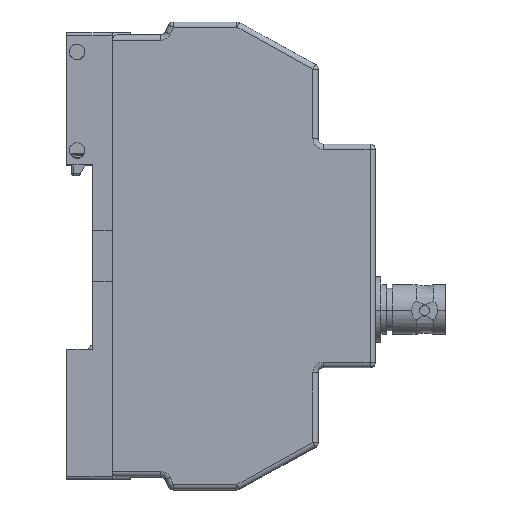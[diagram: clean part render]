
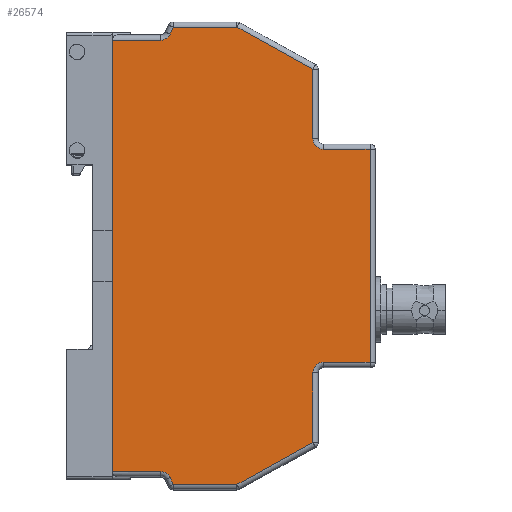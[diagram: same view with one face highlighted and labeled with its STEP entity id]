
A CAD part, top view. The second image highlights one B-rep face of the part: STEP entity #26574.
In plain terms, the highlighted planar face has unit normal (0, 0, 1).
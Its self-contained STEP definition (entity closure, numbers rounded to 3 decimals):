
#7532 = VERTEX_POINT ( 'NONE', #21401 ) ;
#7919 = VERTEX_POINT ( 'NONE', #21823 ) ;
#11810 = DIRECTION ( 'NONE',  ( 0., -1., 0. ) ) ;
#11812 = VECTOR ( 'NONE', #11810, 1000. ) ;
#11813 = CARTESIAN_POINT ( 'NONE',  ( 3.373, -42.5, 17.5 ) ) ;
#11815 = LINE ( 'NONE', #11813, #11812 ) ;
#12192 = CARTESIAN_POINT ( 'NONE',  ( 44., 20.5, 17.5 ) ) ;
#12193 = CARTESIAN_POINT ( 'NONE',  ( 12.702, 41.5, 17.5 ) ) ;
#12195 = DIRECTION ( 'NONE',  ( -1., 0., 0. ) ) ;
#12197 = DIRECTION ( 'NONE',  ( 0., 0., 1. ) ) ;
#12199 = CARTESIAN_POINT ( 'NONE',  ( 12.702, -43.5, 17.5 ) ) ;
#12201 = AXIS2_PLACEMENT_3D ( 'NONE', #12199, #12197, #12195 ) ;
#12202 = CIRCLE ( 'NONE', #12201, 2. ) ;
#12208 = CARTESIAN_POINT ( 'NONE',  ( 12.702, -41.5, 17.5 ) ) ;
#12210 = CARTESIAN_POINT ( 'NONE',  ( 14.523, 42.672, 17.5 ) ) ;
#12267 = CARTESIAN_POINT ( 'NONE',  ( 44., -20.5, 17.5 ) ) ;
#12269 = DIRECTION ( 'NONE',  ( -1., 0., 0. ) ) ;
#12271 = DIRECTION ( 'NONE',  ( 0., 0., -1. ) ) ;
#12272 = AXIS2_PLACEMENT_3D ( 'NONE', #12278, #12271, #12269 ) ;
#12278 = CARTESIAN_POINT ( 'NONE',  ( 54., 21.5, 17.5 ) ) ;
#12279 = PLANE ( 'NONE',  #12272 ) ;
#12281 = FACE_OUTER_BOUND ( 'NONE', #26534, .T. ) ;
#12283 = DIRECTION ( 'NONE',  ( -1., 0., 0. ) ) ;
#12284 = DIRECTION ( 'NONE',  ( 0., 0., 1. ) ) ;
#12285 = CARTESIAN_POINT ( 'NONE',  ( 44., -22.5, 17.5 ) ) ;
#12287 = AXIS2_PLACEMENT_3D ( 'NONE', #12285, #12284, #12283 ) ;
#12288 = CIRCLE ( 'NONE', #12287, 2. ) ;
#12294 = DIRECTION ( 'NONE',  ( -1., 0., 0. ) ) ;
#12296 = DIRECTION ( 'NONE',  ( 0., 0., 1. ) ) ;
#12298 = CARTESIAN_POINT ( 'NONE',  ( 12.702, 43.5, 17.5 ) ) ;
#12300 = AXIS2_PLACEMENT_3D ( 'NONE', #12298, #12296, #12294 ) ;
#12301 = CIRCLE ( 'NONE', #12300, 2. ) ;
#12315 = DIRECTION ( 'NONE',  ( 1., 0., 0. ) ) ;
#12316 = VECTOR ( 'NONE', #12315, 1000. ) ;
#12317 = CARTESIAN_POINT ( 'NONE',  ( 54., -41.5, 17.5 ) ) ;
#12320 = LINE ( 'NONE', #12317, #12316 ) ;
#12323 = DIRECTION ( 'NONE',  ( -1., 0., 0. ) ) ;
#12325 = VECTOR ( 'NONE', #12323, 1000. ) ;
#12326 = CARTESIAN_POINT ( 'NONE',  ( 54., 41.5, 17.5 ) ) ;
#12328 = LINE ( 'NONE', #12326, #12325 ) ;
#12332 = CARTESIAN_POINT ( 'NONE',  ( 42., -22.5, 17.5 ) ) ;
#12334 = DIRECTION ( 'NONE',  ( 0., 1., 0. ) ) ;
#12336 = VECTOR ( 'NONE', #12334, 1000. ) ;
#12338 = CARTESIAN_POINT ( 'NONE',  ( 42., 21.5, 17.5 ) ) ;
#12339 = LINE ( 'NONE', #12338, #12336 ) ;
#12344 = CARTESIAN_POINT ( 'NONE',  ( 42., 22.5, 17.5 ) ) ;
#12346 = DIRECTION ( 'NONE',  ( 0.414, -0.91, 0. ) ) ;
#12348 = VECTOR ( 'NONE', #12346, 1000. ) ;
#12350 = CARTESIAN_POINT ( 'NONE',  ( -2.896, -4.388, 17.5 ) ) ;
#12351 = LINE ( 'NONE', #12350, #12348 ) ;
#12355 = DIRECTION ( 'NONE',  ( 1., 0., 0. ) ) ;
#12357 = VECTOR ( 'NONE', #12355, 1000. ) ;
#12358 = CARTESIAN_POINT ( 'NONE',  ( 54., -44., 17.5 ) ) ;
#12359 = LINE ( 'NONE', #12358, #12357 ) ;
#12365 = CARTESIAN_POINT ( 'NONE',  ( 15.127, -44., 17.5 ) ) ;
#12367 = DIRECTION ( 'NONE',  ( 0.876, 0.483, 0. ) ) ;
#12369 = VECTOR ( 'NONE', #12367, 1000. ) ;
#12370 = CARTESIAN_POINT ( 'NONE',  ( 75.49, -17.478, 17.5 ) ) ;
#12372 = LINE ( 'NONE', #12370, #12369 ) ;
#12375 = CARTESIAN_POINT ( 'NONE',  ( 27.386, -44., 17.5 ) ) ;
#12380 = CARTESIAN_POINT ( 'NONE',  ( 42., -35.942, 17.5 ) ) ;
#12383 = DIRECTION ( 'NONE',  ( 0., 1., 0. ) ) ;
#12384 = VECTOR ( 'NONE', #12383, 1000. ) ;
#12385 = CARTESIAN_POINT ( 'NONE',  ( 42., 21.5, 17.5 ) ) ;
#12387 = LINE ( 'NONE', #12385, #12384 ) ;
#12434 = DIRECTION ( 'NONE',  ( 1., 0., 0. ) ) ;
#12436 = VECTOR ( 'NONE', #12434, 1000. ) ;
#12438 = CARTESIAN_POINT ( 'NONE',  ( 54., -20.5, 17.5 ) ) ;
#12439 = LINE ( 'NONE', #12438, #12436 ) ;
#12444 = DIRECTION ( 'NONE',  ( 0., 1., 0. ) ) ;
#12446 = VECTOR ( 'NONE', #12444, 1000. ) ;
#12447 = CARTESIAN_POINT ( 'NONE',  ( 53., 21.5, 17.5 ) ) ;
#12448 = LINE ( 'NONE', #12447, #12446 ) ;
#12454 = CARTESIAN_POINT ( 'NONE',  ( 53., -20.5, 17.5 ) ) ;
#12456 = CARTESIAN_POINT ( 'NONE',  ( 27.386, 44., 17.5 ) ) ;
#12458 = DIRECTION ( 'NONE',  ( -1., 0., 0. ) ) ;
#12460 = VECTOR ( 'NONE', #12458, 1000. ) ;
#12462 = CARTESIAN_POINT ( 'NONE',  ( 54., 20.5, 17.5 ) ) ;
#12464 = LINE ( 'NONE', #12462, #12460 ) ;
#12466 = CARTESIAN_POINT ( 'NONE',  ( 53., 20.5, 17.5 ) ) ;
#12468 = DIRECTION ( 'NONE',  ( -1., 0., 0. ) ) ;
#12470 = DIRECTION ( 'NONE',  ( 0., 0., 1. ) ) ;
#12472 = CARTESIAN_POINT ( 'NONE',  ( 44., 22.5, 17.5 ) ) ;
#12474 = AXIS2_PLACEMENT_3D ( 'NONE', #12472, #12470, #12468 ) ;
#12476 = CIRCLE ( 'NONE', #12474, 2. ) ;
#12501 = DIRECTION ( 'NONE',  ( -1., 0., 0. ) ) ;
#12502 = VECTOR ( 'NONE', #12501, 1000. ) ;
#12505 = CARTESIAN_POINT ( 'NONE',  ( 54., 44., 17.5 ) ) ;
#12506 = LINE ( 'NONE', #12505, #12502 ) ;
#12511 = DIRECTION ( 'NONE',  ( -0.414, -0.91, 0. ) ) ;
#12513 = VECTOR ( 'NONE', #12511, 1000. ) ;
#12515 = CARTESIAN_POINT ( 'NONE',  ( 13.313, 40.012, 17.5 ) ) ;
#12516 = LINE ( 'NONE', #12515, #12513 ) ;
#12520 = CARTESIAN_POINT ( 'NONE',  ( 15.127, 44., 17.5 ) ) ;
#12547 = CARTESIAN_POINT ( 'NONE',  ( 14.523, -42.672, 17.5 ) ) ;
#12596 = DIRECTION ( 'NONE',  ( -0.876, 0.483, 0. ) ) ;
#12597 = VECTOR ( 'NONE', #12596, 1000. ) ;
#12599 = CARTESIAN_POINT ( 'NONE',  ( 57.309, 27.502, 17.5 ) ) ;
#12601 = LINE ( 'NONE', #12599, #12597 ) ;
#12605 = CARTESIAN_POINT ( 'NONE',  ( 42., 35.942, 17.5 ) ) ;
#21401 = CARTESIAN_POINT ( 'NONE',  ( 3.373, -41.5, 17.5 ) ) ;
#21823 = CARTESIAN_POINT ( 'NONE',  ( 3.373, 41.5, 17.5 ) ) ;
#26395 = EDGE_CURVE ( 'NONE', #7919, #7532, #11815, .T. ) ;
#26534 = EDGE_LOOP ( 'NONE', ( #26561, #26552, #26565, #26563, #26551, #26557, #26585, #26582, #26580, #26573, #27432, #27215, #26597, #26592, #26589, #30663, #26862, #29280 ) ) ;
#26551 = ORIENTED_EDGE ( 'NONE', *, *, #26555, .F. ) ;
#26552 = ORIENTED_EDGE ( 'NONE', *, *, #26564, .T. ) ;
#26553 = VERTEX_POINT ( 'NONE', #12210 ) ;
#26554 = VERTEX_POINT ( 'NONE', #12208 ) ;
#26555 = EDGE_CURVE ( 'NONE', #28139, #26554, #12202, .T. ) ;
#26556 = VERTEX_POINT ( 'NONE', #12193 ) ;
#26557 = ORIENTED_EDGE ( 'NONE', *, *, #26588, .T. ) ;
#26558 = VERTEX_POINT ( 'NONE', #12192 ) ;
#26559 = VERTEX_POINT ( 'NONE', #12332 ) ;
#26561 = ORIENTED_EDGE ( 'NONE', *, *, #26570, .F. ) ;
#26563 = ORIENTED_EDGE ( 'NONE', *, *, #26567, .T. ) ;
#26564 = EDGE_CURVE ( 'NONE', #26556, #7919, #12328, .T. ) ;
#26565 = ORIENTED_EDGE ( 'NONE', *, *, #26395, .T. ) ;
#26567 = EDGE_CURVE ( 'NONE', #7532, #26554, #12320, .T. ) ;
#26570 = EDGE_CURVE ( 'NONE', #26556, #26553, #12301, .T. ) ;
#26572 = EDGE_CURVE ( 'NONE', #26575, #26559, #12288, .T. ) ;
#26573 = ORIENTED_EDGE ( 'NONE', *, *, #26572, .F. ) ;
#26574 = ADVANCED_FACE ( 'NONE', ( #12281 ), #12279, .F. ) ;
#26575 = VERTEX_POINT ( 'NONE', #12267 ) ;
#26578 = EDGE_CURVE ( 'NONE', #26579, #26559, #12387, .T. ) ;
#26579 = VERTEX_POINT ( 'NONE', #12380 ) ;
#26580 = ORIENTED_EDGE ( 'NONE', *, *, #26578, .T. ) ;
#26582 = ORIENTED_EDGE ( 'NONE', *, *, #26584, .T. ) ;
#26583 = VERTEX_POINT ( 'NONE', #12375 ) ;
#26584 = EDGE_CURVE ( 'NONE', #26583, #26579, #12372, .T. ) ;
#26585 = ORIENTED_EDGE ( 'NONE', *, *, #26587, .T. ) ;
#26586 = VERTEX_POINT ( 'NONE', #12365 ) ;
#26587 = EDGE_CURVE ( 'NONE', #26586, #26583, #12359, .T. ) ;
#26588 = EDGE_CURVE ( 'NONE', #28139, #26586, #12351, .T. ) ;
#26589 = ORIENTED_EDGE ( 'NONE', *, *, #26591, .T. ) ;
#26590 = VERTEX_POINT ( 'NONE', #12344 ) ;
#26591 = EDGE_CURVE ( 'NONE', #26590, #30561, #12339, .T. ) ;
#26592 = ORIENTED_EDGE ( 'NONE', *, *, #26593, .F. ) ;
#26593 = EDGE_CURVE ( 'NONE', #26590, #26558, #12476, .T. ) ;
#26595 = VERTEX_POINT ( 'NONE', #12466 ) ;
#26596 = EDGE_CURVE ( 'NONE', #26595, #26558, #12464, .T. ) ;
#26597 = ORIENTED_EDGE ( 'NONE', *, *, #26596, .T. ) ;
#26817 = VERTEX_POINT ( 'NONE', #12456 ) ;
#26862 = ORIENTED_EDGE ( 'NONE', *, *, #29333, .T. ) ;
#27215 = ORIENTED_EDGE ( 'NONE', *, *, #27300, .T. ) ;
#27248 = VERTEX_POINT ( 'NONE', #12454 ) ;
#27300 = EDGE_CURVE ( 'NONE', #27248, #26595, #12448, .T. ) ;
#27356 = EDGE_CURVE ( 'NONE', #26575, #27248, #12439, .T. ) ;
#27432 = ORIENTED_EDGE ( 'NONE', *, *, #27356, .T. ) ;
#28139 = VERTEX_POINT ( 'NONE', #12547 ) ;
#29226 = VERTEX_POINT ( 'NONE', #12520 ) ;
#29280 = ORIENTED_EDGE ( 'NONE', *, *, #29310, .T. ) ;
#29310 = EDGE_CURVE ( 'NONE', #29226, #26553, #12516, .T. ) ;
#29333 = EDGE_CURVE ( 'NONE', #26817, #29226, #12506, .T. ) ;
#30561 = VERTEX_POINT ( 'NONE', #12605 ) ;
#30573 = EDGE_CURVE ( 'NONE', #30561, #26817, #12601, .T. ) ;
#30663 = ORIENTED_EDGE ( 'NONE', *, *, #30573, .T. ) ;
